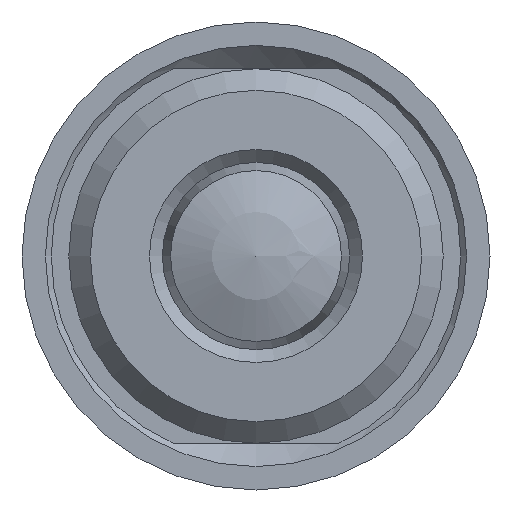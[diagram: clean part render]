
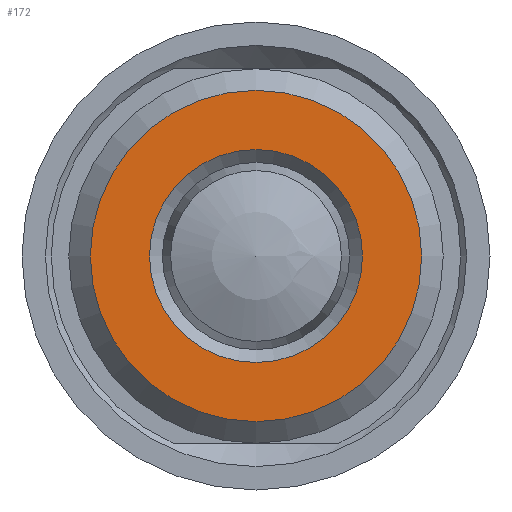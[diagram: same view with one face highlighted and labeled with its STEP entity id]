
A CAD part, left-side view. The second image highlights one B-rep face of the part: STEP entity #172.
In plain terms, the highlighted planar face has unit normal (-1, 0, 0) as drawn and (1, 0, 0) by its records, which use the part's own axes.
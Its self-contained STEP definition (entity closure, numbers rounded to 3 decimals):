
#172 = ADVANCED_FACE( '', ( #218, #219 ), #220, .F. );
#218 = FACE_BOUND( '', #338, .T. );
#219 = FACE_OUTER_BOUND( '', #339, .T. );
#220 = PLANE( '', #340 );
#338 = EDGE_LOOP( '', ( #472 ) );
#339 = EDGE_LOOP( '', ( #473 ) );
#340 = AXIS2_PLACEMENT_3D( '', #474, #475, #476 );
#472 = ORIENTED_EDGE( '', *, *, #677, .F. );
#473 = ORIENTED_EDGE( '', *, *, #678, .T. );
#474 = CARTESIAN_POINT( '', ( 48., 7.08, 0. ) );
#475 = DIRECTION( '', ( -1., 0., 0. ) );
#476 = DIRECTION( '', ( 0., 0., 1. ) );
#677 = EDGE_CURVE( '', #734, #734, #735, .T. );
#678 = EDGE_CURVE( '', #736, #736, #737, .T. );
#734 = VERTEX_POINT( '', #852 );
#735 = CIRCLE( '', #853, 4.55 );
#736 = VERTEX_POINT( '', #854 );
#737 = CIRCLE( '', #855, 7.08 );
#852 = CARTESIAN_POINT( '', ( 48., 0., -4.55 ) );
#853 = AXIS2_PLACEMENT_3D( '', #1248, #1249, #1250 );
#854 = CARTESIAN_POINT( '', ( 48., 0., -7.08 ) );
#855 = AXIS2_PLACEMENT_3D( '', #1251, #1252, #1253 );
#1248 = CARTESIAN_POINT( '', ( 48., 0., 0. ) );
#1249 = DIRECTION( '', ( 1., 0., 0. ) );
#1250 = DIRECTION( '', ( 0., 0., -1. ) );
#1251 = CARTESIAN_POINT( '', ( 48., 0., 0. ) );
#1252 = DIRECTION( '', ( 1., 0., 0. ) );
#1253 = DIRECTION( '', ( 0., 0., -1. ) );
